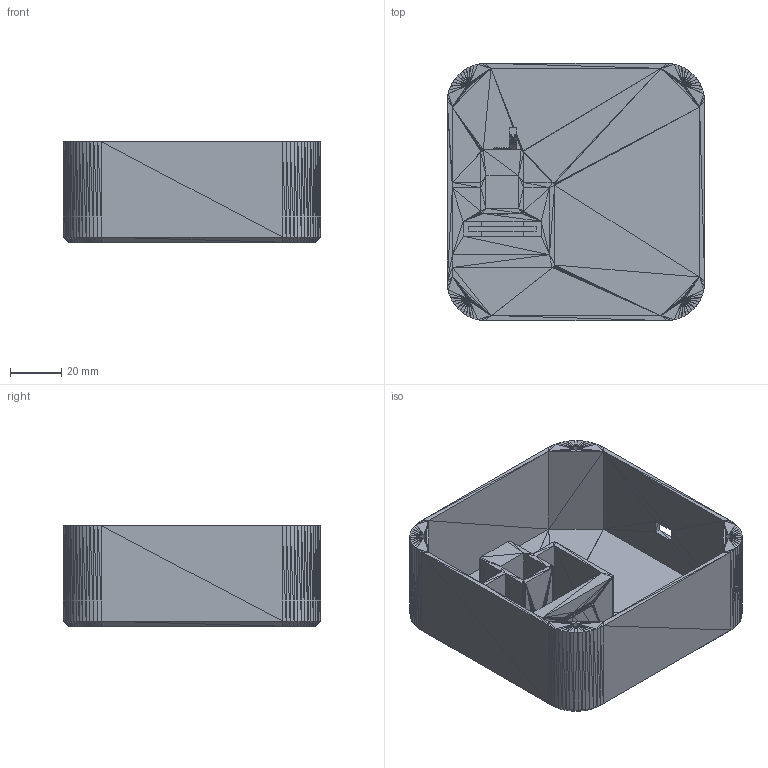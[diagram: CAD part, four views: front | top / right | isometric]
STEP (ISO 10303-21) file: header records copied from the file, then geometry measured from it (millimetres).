
FILE_DESCRIPTION(/* description */ (''),/* implementation_level */ '2;1');
FILE_NAME(/* name */ 'C:/Users/Vincent/Desktop/NOVE3D/Documents clients (ssd ext)/140 - Valin/Corps v5.step',/* time_stamp */ '2021-11-09T18:22:30+01:00',/* author */ (''),/* organization */ (''),/* preprocessor_version */ 'ST-DEVELOPER v18.1',/* originating_system */ 'Autodesk Translation Framework v10.10.0.1391',/* authorisation */ '');
FILE_SCHEMA (('AUTOMOTIVE_DESIGN { 1 0 10303 214 3 1 1 }'));
Products named in the file (1): Corps
Bounding box: 100 x 100 x 39 mm (x, y, z)
Volume: 78127.2 mm3; surface area: 59788.1 mm2
Topology: 1 solids, 1 shells, 2536 faces, 4581 edges, 2048 vertices
Faces by surface type: plane 2530, cylinder 6
Full cylindrical faces by diameter (mm): 2.5 x4
Entity records: 63670 total; most frequent: CARTESIAN_POINT 10718, ORIENTED_EDGE 10714, DIRECTION 10595, EDGE_CURVE 5357, LINE 5193, VECTOR 5193, VERTEX_POINT 2824, AXIS2_PLACEMENT_3D 2701
